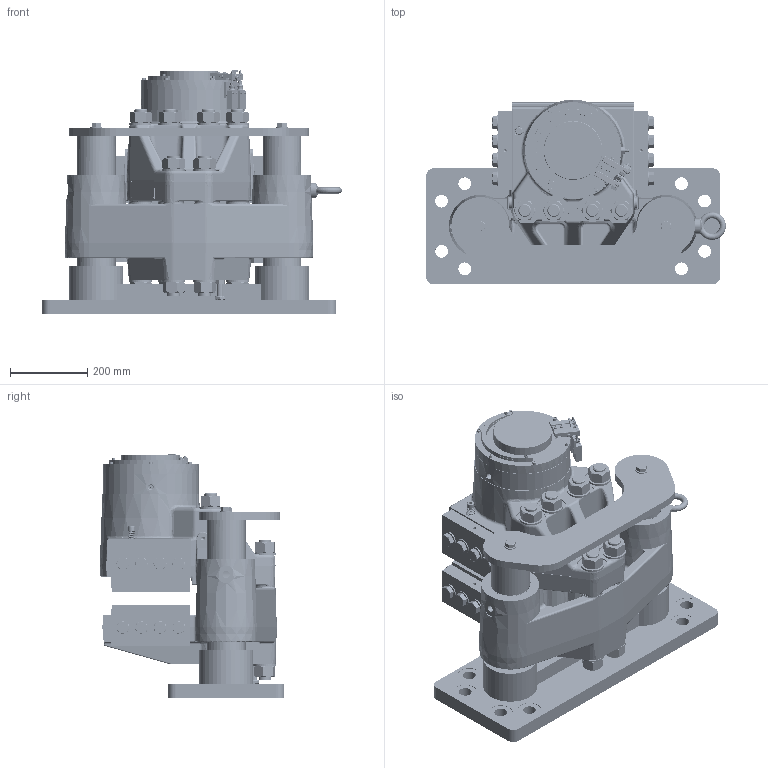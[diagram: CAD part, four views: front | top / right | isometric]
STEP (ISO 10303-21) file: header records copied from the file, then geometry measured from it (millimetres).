
FILE_DESCRIPTION((''),'2;1');
FILE_NAME('HS_165_FHM-420R-V','2020-10-30T',('BOLS'),(''),'CREO PARAMETRIC BY PTC INC, 2018360','CREO PARAMETRIC BY PTC INC, 2018360','');
FILE_SCHEMA(('CONFIG_CONTROL_DESIGN'));
Products named in the file (1): HS_165_FHM-420R-V
Bounding box: 775 x 476.7 x 632.2 mm (x, y, z)
Volume: 5234837.9 mm3; surface area: 4082890.1 mm2
Topology: 45 solids, 86 shells, 3818 faces, 9344 edges, 5788 vertices
Faces by surface type: plane 1302, cylinder 1178, cone 846, bspline 270, torus 172, sphere 50
Entity records: 212741 total; most frequent: CARTESIAN_POINT 82987, DIRECTION 18344, ORIENTED_EDGE 18262, PRESENTATION_STYLE_ASSIGNMENT 11164, STYLED_ITEM 9185, CURVE_STYLE 9134, EDGE_CURVE 9134, AXIS2_PLACEMENT_3D 7360
